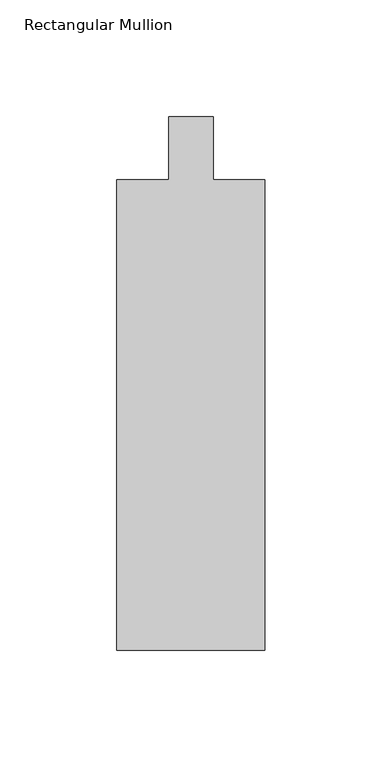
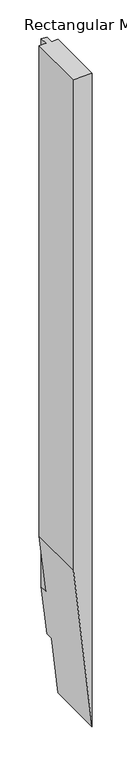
"""IFC4 building model written with IfcOpenShell, lengths in millimetres: member geometry."""

from ifc_helpers import new_model, si_unit, origin, place, context, project, spatial, faceted_brep, source, transform, mapped, element, save


def rectangular_mullion_462ec1b4(model_context):
    return source(origin(), model_context, "Body", "Brep", [
        faceted_brep([(-63.5, -228.6, 0.0), (0.0, -228.6, 0.0), (0.0, -26.9875, 0.0), (-22.225, -26.9875, 0.0), (-22.225, 0.0, 0.0), (-41.275, 0.0, 0.0), (-41.275, -26.9875, 0.0), (-63.5, -26.9875, 0.0), (-63.5, -228.6, -1763.5803173), (0.0, -228.6, -2348.0897163), (0.0, -26.9875, -2348.0897163), (-22.225, -26.9875, -2143.5114267), (-22.225, 0.0, -2143.5114267), (-41.275, 0.0, -1968.1586069), (-41.275, -26.9875, -1968.1586069), (-63.5, -26.9875, -1763.5803173)], [[[0, 1, 2, 3, 4, 5, 6, 7]], [[1, 0, 8, 9]], [[2, 1, 9, 10]], [[3, 2, 10, 11]], [[4, 3, 11, 12]], [[5, 4, 12, 13]], [[6, 5, 13, 14]], [[7, 6, 14, 15]], [[0, 7, 15, 8]], [[8, 15, 14, 13, 12, 11, 10, 9]]]),
    ])


if __name__ == "__main__":
    model = new_model("IFC4")
    model_context = context("Model", 3, world=origin())
    ifc_project = project(units=[si_unit("LENGTHUNIT", "METRE", prefix="MILLI")], contexts=[model_context])
    site = spatial("IfcSite", under=ifc_project)
    building = spatial("IfcBuilding", under=site)
    placement = place(None, origin())
    rectangular_mullion_shape = rectangular_mullion_462ec1b4(model_context)
    element("IfcMember", 1, ObjectType="Rectangular Mullion : 2 1/2\" x 8\" - Capless", at=placement, inside=building, context=model_context, shape_type="MappedRepresentation", body=[
        mapped(rectangular_mullion_shape, transform((0.0, 0.0, 0.0), x_axis=(1.0, 0.0, 0.0), y_axis=(0.0, 1.0, 0.0), z_axis=(0.0, 0.0, 1.0))),
    ])
    save(model, "model.ifc")
